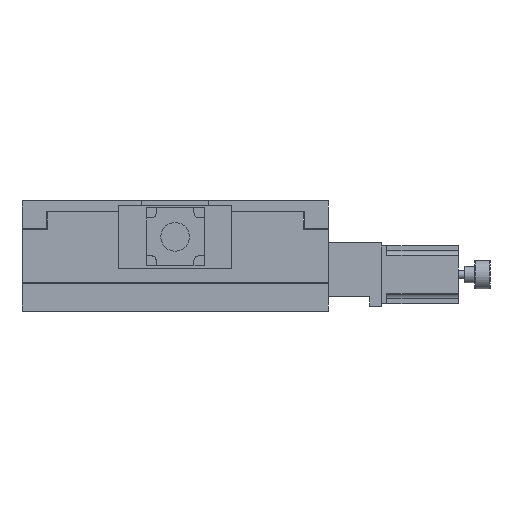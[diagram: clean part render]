
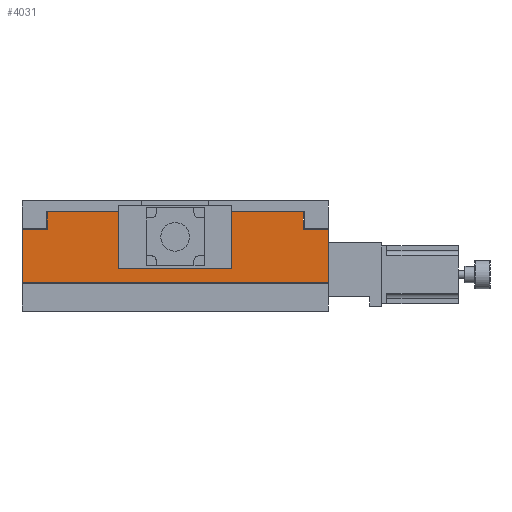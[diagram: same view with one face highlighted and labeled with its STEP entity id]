
A CAD part, left-side view. The second image highlights one B-rep face of the part: STEP entity #4031.
In plain terms, the highlighted planar face has unit normal (-1, 0, 0).
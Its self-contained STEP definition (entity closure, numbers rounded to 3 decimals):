
#4 = LINE ( 'NONE', #1692, #981 ) ;
#8 = VERTEX_POINT ( 'NONE', #1976 ) ;
#63 = CARTESIAN_POINT ( 'NONE',  ( -150., -150., 94. ) ) ;
#78 = DIRECTION ( 'NONE',  ( 0., -1., 0. ) ) ;
#98 = CARTESIAN_POINT ( 'NONE',  ( -150., -150., 27.5 ) ) ;
#118 = LINE ( 'NONE', #3701, #4080 ) ;
#151 = CARTESIAN_POINT ( 'NONE',  ( -150., -150., 97. ) ) ;
#441 = VECTOR ( 'NONE', #2221, 1000. ) ;
#483 = ORIENTED_EDGE ( 'NONE', *, *, #4527, .T. ) ;
#567 = VERTEX_POINT ( 'NONE', #688 ) ;
#571 = VERTEX_POINT ( 'NONE', #4511 ) ;
#632 = LINE ( 'NONE', #63, #4539 ) ;
#688 = CARTESIAN_POINT ( 'NONE',  ( -150., 150., 27.5 ) ) ;
#792 = ORIENTED_EDGE ( 'NONE', *, *, #4682, .F. ) ;
#812 = CARTESIAN_POINT ( 'NONE',  ( -150., 55.5, 94. ) ) ;
#828 = ORIENTED_EDGE ( 'NONE', *, *, #4238, .F. ) ;
#840 = CARTESIAN_POINT ( 'NONE',  ( -150., -55.5, 41.5 ) ) ;
#855 = LINE ( 'NONE', #151, #1776 ) ;
#981 = VECTOR ( 'NONE', #1662, 1000. ) ;
#1035 = ORIENTED_EDGE ( 'NONE', *, *, #2755, .F. ) ;
#1038 = DIRECTION ( 'NONE',  ( 0., 0., 1. ) ) ;
#1059 = EDGE_CURVE ( 'NONE', #4230, #4525, #2043, .T. ) ;
#1249 = VERTEX_POINT ( 'NONE', #3667 ) ;
#1541 = EDGE_CURVE ( 'NONE', #2433, #1249, #1918, .T. ) ;
#1569 = VERTEX_POINT ( 'NONE', #4882 ) ;
#1621 = DIRECTION ( 'NONE',  ( 0., 0., -1. ) ) ;
#1638 = CARTESIAN_POINT ( 'NONE',  ( -150., 150., 108. ) ) ;
#1651 = LINE ( 'NONE', #3169, #3499 ) ;
#1657 = ORIENTED_EDGE ( 'NONE', *, *, #3585, .F. ) ;
#1662 = DIRECTION ( 'NONE',  ( 0., -1., 0. ) ) ;
#1692 = CARTESIAN_POINT ( 'NONE',  ( -150., -150., 80. ) ) ;
#1776 = VECTOR ( 'NONE', #78, 1000. ) ;
#1780 = LINE ( 'NONE', #2676, #4615 ) ;
#1843 = VERTEX_POINT ( 'NONE', #3263 ) ;
#1918 = LINE ( 'NONE', #4900, #2906 ) ;
#1976 = CARTESIAN_POINT ( 'NONE',  ( -150., 150., 80. ) ) ;
#1993 = CARTESIAN_POINT ( 'NONE',  ( -150., 125.4, 108. ) ) ;
#2002 = DIRECTION ( 'NONE',  ( 0., 0., 1. ) ) ;
#2017 = FACE_OUTER_BOUND ( 'NONE', #2547, .T. ) ;
#2043 = LINE ( 'NONE', #3059, #3997 ) ;
#2121 = EDGE_CURVE ( 'NONE', #8, #567, #4093, .T. ) ;
#2209 = CARTESIAN_POINT ( 'NONE',  ( -150., -150., 41.5 ) ) ;
#2221 = DIRECTION ( 'NONE',  ( 0., -1., 0. ) ) ;
#2225 = VECTOR ( 'NONE', #2002, 1000. ) ;
#2241 = DIRECTION ( 'NONE',  ( 0., 1., 0. ) ) ;
#2397 = VECTOR ( 'NONE', #3056, 1000. ) ;
#2433 = VERTEX_POINT ( 'NONE', #98 ) ;
#2524 = LINE ( 'NONE', #2209, #441 ) ;
#2538 = DIRECTION ( 'NONE',  ( 1., 0., 0. ) ) ;
#2547 = EDGE_LOOP ( 'NONE', ( #1657, #3660, #792, #4876, #483, #3492, #4374, #3839 ) ) ;
#2604 = VERTEX_POINT ( 'NONE', #840 ) ;
#2676 = CARTESIAN_POINT ( 'NONE',  ( -150., -55.5, 108. ) ) ;
#2755 = EDGE_CURVE ( 'NONE', #4525, #2604, #2524, .T. ) ;
#2906 = VECTOR ( 'NONE', #4833, 1000. ) ;
#3018 = VECTOR ( 'NONE', #1621, 1000. ) ;
#3056 = DIRECTION ( 'NONE',  ( 0., -1., 0. ) ) ;
#3059 = CARTESIAN_POINT ( 'NONE',  ( -150., 55.5, 108. ) ) ;
#3063 = DIRECTION ( 'NONE',  ( 0., 0., -1. ) ) ;
#3129 = CARTESIAN_POINT ( 'NONE',  ( -150., 126.4, 80. ) ) ;
#3130 = VERTEX_POINT ( 'NONE', #3838 ) ;
#3169 = CARTESIAN_POINT ( 'NONE',  ( -150., -125.4, 108. ) ) ;
#3175 = EDGE_CURVE ( 'NONE', #2604, #1843, #1780, .T. ) ;
#3187 = DIRECTION ( 'NONE',  ( 0., 0., -1. ) ) ;
#3263 = CARTESIAN_POINT ( 'NONE',  ( -150., -55.5, 94. ) ) ;
#3318 = PLANE ( 'NONE',  #3621 ) ;
#3359 = CARTESIAN_POINT ( 'NONE',  ( -150., -125.4, 80. ) ) ;
#3396 = LINE ( 'NONE', #3129, #2397 ) ;
#3492 = ORIENTED_EDGE ( 'NONE', *, *, #1541, .T. ) ;
#3499 = VECTOR ( 'NONE', #3187, 1000. ) ;
#3585 = EDGE_CURVE ( 'NONE', #1569, #571, #855, .T. ) ;
#3618 = DIRECTION ( 'NONE',  ( 0., -1., 0. ) ) ;
#3621 = AXIS2_PLACEMENT_3D ( 'NONE', #3792, #2538, #3807 ) ;
#3660 = ORIENTED_EDGE ( 'NONE', *, *, #4878, .F. ) ;
#3667 = CARTESIAN_POINT ( 'NONE',  ( -150., -150., 80. ) ) ;
#3701 = CARTESIAN_POINT ( 'NONE',  ( -150., -150., 27.5 ) ) ;
#3748 = CARTESIAN_POINT ( 'NONE',  ( -150., 55.5, 41.5 ) ) ;
#3792 = CARTESIAN_POINT ( 'NONE',  ( -150., -150., 108. ) ) ;
#3798 = ORIENTED_EDGE ( 'NONE', *, *, #1059, .F. ) ;
#3807 = DIRECTION ( 'NONE',  ( 0., 0., -1. ) ) ;
#3838 = CARTESIAN_POINT ( 'NONE',  ( -150., 125.4, 80. ) ) ;
#3839 = ORIENTED_EDGE ( 'NONE', *, *, #4651, .F. ) ;
#3840 = ORIENTED_EDGE ( 'NONE', *, *, #3175, .F. ) ;
#3859 = FACE_BOUND ( 'NONE', #4004, .T. ) ;
#3997 = VECTOR ( 'NONE', #3063, 1000. ) ;
#4004 = EDGE_LOOP ( 'NONE', ( #3840, #1035, #3798, #828 ) ) ;
#4031 = ADVANCED_FACE ( 'NONE', ( #2017, #3859 ), #3318, .F. ) ;
#4080 = VECTOR ( 'NONE', #3618, 1000. ) ;
#4093 = LINE ( 'NONE', #1638, #3018 ) ;
#4188 = LINE ( 'NONE', #1993, #2225 ) ;
#4230 = VERTEX_POINT ( 'NONE', #812 ) ;
#4238 = EDGE_CURVE ( 'NONE', #1843, #4230, #632, .T. ) ;
#4374 = ORIENTED_EDGE ( 'NONE', *, *, #4920, .F. ) ;
#4511 = CARTESIAN_POINT ( 'NONE',  ( -150., -125.4, 97. ) ) ;
#4525 = VERTEX_POINT ( 'NONE', #3748 ) ;
#4527 = EDGE_CURVE ( 'NONE', #567, #2433, #118, .T. ) ;
#4539 = VECTOR ( 'NONE', #2241, 1000. ) ;
#4610 = VERTEX_POINT ( 'NONE', #3359 ) ;
#4615 = VECTOR ( 'NONE', #1038, 1000. ) ;
#4651 = EDGE_CURVE ( 'NONE', #571, #4610, #1651, .T. ) ;
#4682 = EDGE_CURVE ( 'NONE', #8, #3130, #3396, .T. ) ;
#4833 = DIRECTION ( 'NONE',  ( 0., 0., 1. ) ) ;
#4876 = ORIENTED_EDGE ( 'NONE', *, *, #2121, .T. ) ;
#4878 = EDGE_CURVE ( 'NONE', #3130, #1569, #4188, .T. ) ;
#4882 = CARTESIAN_POINT ( 'NONE',  ( -150., 125.4, 97. ) ) ;
#4900 = CARTESIAN_POINT ( 'NONE',  ( -150., -150., 108. ) ) ;
#4920 = EDGE_CURVE ( 'NONE', #4610, #1249, #4, .T. ) ;
